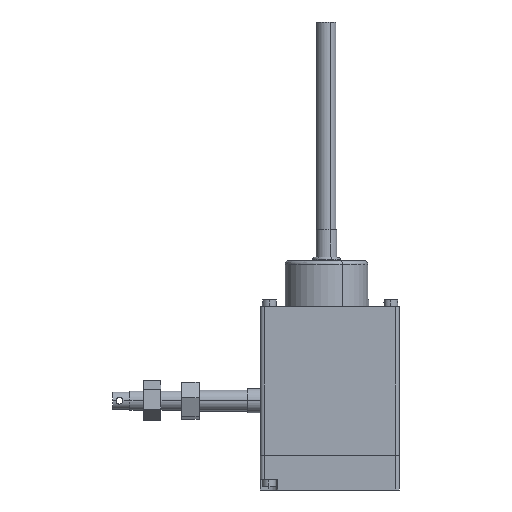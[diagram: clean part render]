
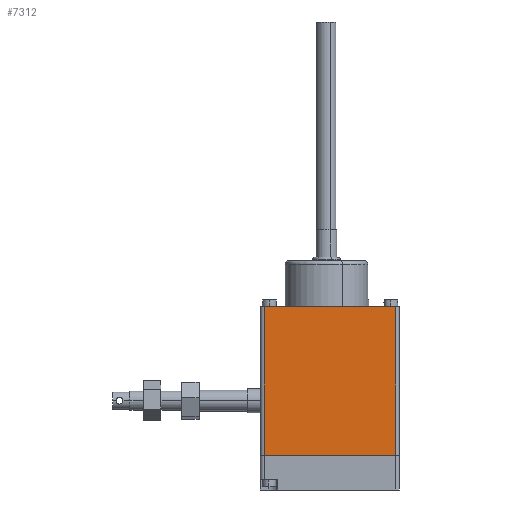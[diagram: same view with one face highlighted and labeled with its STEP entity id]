
A CAD part, left-side view. The second image highlights one B-rep face of the part: STEP entity #7312.
In plain terms, the highlighted planar face has unit normal (-1, 0, 0).
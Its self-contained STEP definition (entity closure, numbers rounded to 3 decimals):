
#139 = CARTESIAN_POINT ( 'NONE',  ( -20., -20., 0. ) ) ;
#237 = PLANE ( 'NONE',  #6382 ) ;
#1017 = CARTESIAN_POINT ( 'NONE',  ( -20., -19., 0. ) ) ;
#1214 = LINE ( 'NONE', #4366, #1566 ) ;
#1335 = DIRECTION ( 'NONE',  ( 0., 0., -1. ) ) ;
#1400 = FACE_OUTER_BOUND ( 'NONE', #6558, .T. ) ;
#1566 = VECTOR ( 'NONE', #4940, 1000. ) ;
#2115 = LINE ( 'NONE', #5978, #6491 ) ;
#2231 = DIRECTION ( 'NONE',  ( 0., -1., 0. ) ) ;
#2353 = DIRECTION ( 'NONE',  ( 0., -1., 0. ) ) ;
#2408 = VERTEX_POINT ( 'NONE', #5645 ) ;
#2504 = EDGE_CURVE ( 'NONE', #2408, #4318, #4206, .T. ) ;
#2570 = DIRECTION ( 'NONE',  ( 0., 0., 1. ) ) ;
#3328 = LINE ( 'NONE', #6917, #6976 ) ;
#3540 = VERTEX_POINT ( 'NONE', #6551 ) ;
#4179 = EDGE_CURVE ( 'NONE', #5938, #3540, #3328, .T. ) ;
#4206 = LINE ( 'NONE', #139, #5524 ) ;
#4249 = ORIENTED_EDGE ( 'NONE', *, *, #6306, .T. ) ;
#4274 = ORIENTED_EDGE ( 'NONE', *, *, #2504, .T. ) ;
#4318 = VERTEX_POINT ( 'NONE', #1017 ) ;
#4366 = CARTESIAN_POINT ( 'NONE',  ( -20., 19., 31. ) ) ;
#4398 = ORIENTED_EDGE ( 'NONE', *, *, #6380, .T. ) ;
#4940 = DIRECTION ( 'NONE',  ( 0., 0., -1. ) ) ;
#5332 = DIRECTION ( 'NONE',  ( 1., 0., 0. ) ) ;
#5524 = VECTOR ( 'NONE', #2231, 1000. ) ;
#5645 = CARTESIAN_POINT ( 'NONE',  ( -20., 19., 0. ) ) ;
#5871 = CARTESIAN_POINT ( 'NONE',  ( -20., 19., 43. ) ) ;
#5938 = VERTEX_POINT ( 'NONE', #5871 ) ;
#5978 = CARTESIAN_POINT ( 'NONE',  ( -20., -19., 31. ) ) ;
#6306 = EDGE_CURVE ( 'NONE', #5938, #2408, #1214, .T. ) ;
#6380 = EDGE_CURVE ( 'NONE', #4318, #3540, #2115, .T. ) ;
#6382 = AXIS2_PLACEMENT_3D ( 'NONE', #7053, #5332, #1335 ) ;
#6491 = VECTOR ( 'NONE', #2570, 1000. ) ;
#6551 = CARTESIAN_POINT ( 'NONE',  ( -20., -19., 43. ) ) ;
#6558 = EDGE_LOOP ( 'NONE', ( #7208, #4249, #4274, #4398 ) ) ;
#6917 = CARTESIAN_POINT ( 'NONE',  ( -20., 20., 43. ) ) ;
#6976 = VECTOR ( 'NONE', #2353, 1000. ) ;
#7053 = CARTESIAN_POINT ( 'NONE',  ( -20., -20., 31. ) ) ;
#7208 = ORIENTED_EDGE ( 'NONE', *, *, #4179, .F. ) ;
#7312 = ADVANCED_FACE ( 'NONE', ( #1400 ), #237, .F. ) ;
